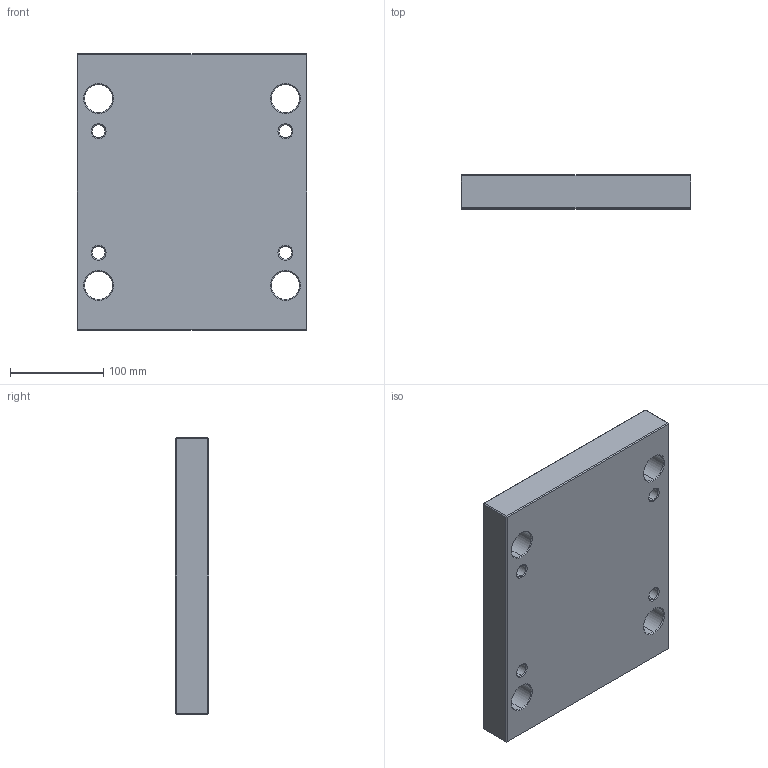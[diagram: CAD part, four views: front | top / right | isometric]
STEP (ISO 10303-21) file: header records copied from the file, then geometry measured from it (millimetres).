
FILE_DESCRIPTION (( 'STEP AP214' ), '1' );
FILE_NAME ('PBAV-EU-246x246x36.STEP', '2020-03-17T19:06:44', ( 'August' ), ( '' ), 'SwSTEP 2.0', 'SolidWorks 2018', '' );
FILE_SCHEMA (( 'AUTOMOTIVE_DESIGN' ));
Length unit declared in the file: millimetre
Products named in the file (1): PBAV-EU-246x246x36
Bounding box: 246 x 36 x 296 mm (x, y, z)
Volume: 2486690.9 mm3; surface area: 196701.9 mm2
Topology: 1 solids, 1 shells, 86 faces, 184 edges, 104 vertices
Faces by surface type: cone 32, plane 30, cylinder 24
Entity records: 2346 total; most frequent: DIRECTION 438, CARTESIAN_POINT 375, ORIENTED_EDGE 368, EDGE_CURVE 184, AXIS2_PLACEMENT_3D 167, EDGE_LOOP 106, LINE 104, VECTOR 104
